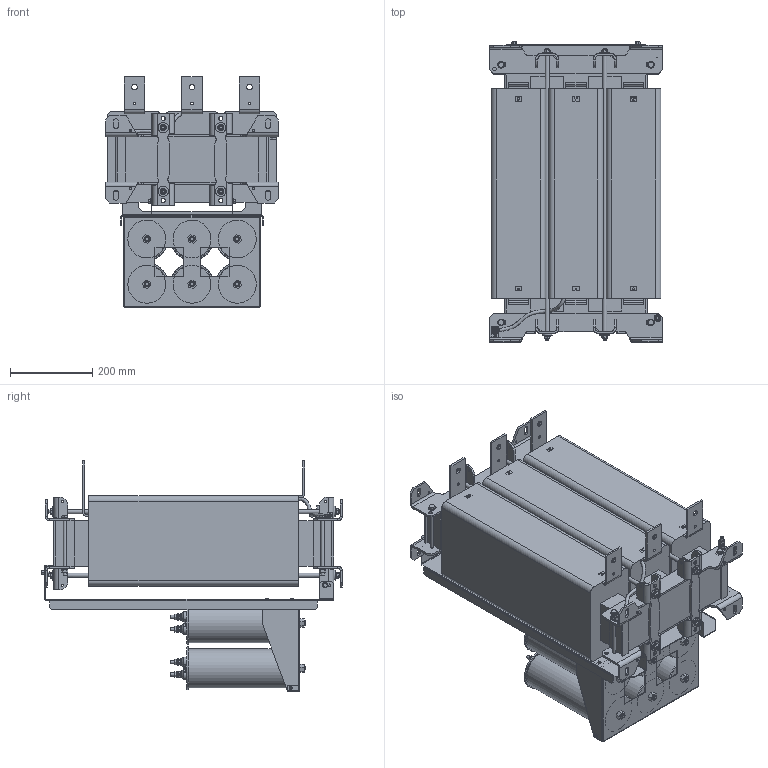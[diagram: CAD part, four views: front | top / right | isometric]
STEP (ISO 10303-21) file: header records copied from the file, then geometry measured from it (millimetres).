
FILE_DESCRIPTION(/* description */ ('raw material description'),/* implementation_level */ '2;1');
FILE_NAME(/* name */ 'C:\Users\Erika.Jenzer\Desktop\New open parts\FN5420-630-99-E0XXT.stp',/* time_stamp */ '2021-01-05T15:16:21+01:00',/* author */ ('erika.jenzer'),/* organization */ ('Schaffner EMV AG'),/* preprocessor_version */ 'ST-DEVELOPER v18.1',/* originating_system */ 'Autodesk Inventor 2020',/* authorisation */ '');
FILE_SCHEMA (('AUTOMOTIVE_DESIGN { 1 0 10303 214 3 1 1 }'));
Products named in the file (1): FN5420-630-99-E0XXT
Bounding box: 420 x 729.85 x 560.12 mm (x, y, z)
Volume: 63357939.6 mm3; surface area: 3324661.9 mm2
Topology: 31 solids, 39 shells, 2740 faces, 7505 edges, 5027 vertices
Faces by surface type: plane 1803, cylinder 656, cone 157, bspline 95, torus 28, sphere 1
Full cylindrical faces by diameter (mm): 1 x1, 2.013 x4, 2.5 x1, 2.8 x4, 3.4 x4, 4 x6, 4.1 x6, 4.3 x6, 5.5 x20, 6 x8, 6.6 x6, 7.9 x6, 8 x59, 8.2 x1, 8.4 x18, 8.6 x24, 9 x12, 9.5 x4, 10.2 x16, 10.5 x7, 11.4 x5, 11.5 x12, 12 x18, 12.5 x6, 13 x4, 13.5 x6, 16 x34, 22 x12, 24.7 x12, 25 x8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
Entity records: 95113 total; most frequent: CARTESIAN_POINT 21542, ORIENTED_EDGE 15010, DIRECTION 14409, EDGE_CURVE 7505, VERTEX_POINT 5027, AXIS2_PLACEMENT_3D 4986, LINE 4437, VECTOR 4437
